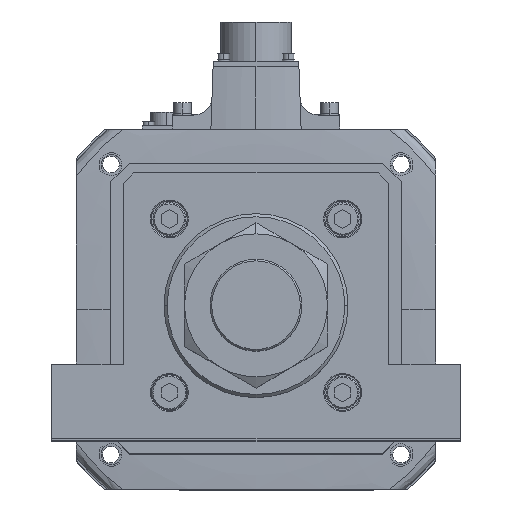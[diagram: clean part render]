
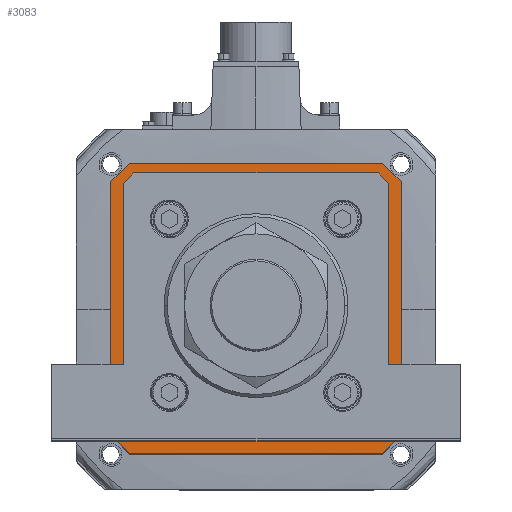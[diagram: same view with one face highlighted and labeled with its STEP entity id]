
A CAD part, top view. The second image highlights one B-rep face of the part: STEP entity #3083.
In plain terms, the highlighted planar face has unit normal (0, 0, 1) as drawn and (0, 0, -1) by its records, which use the part's own axes.
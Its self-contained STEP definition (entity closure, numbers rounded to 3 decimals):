
#216 = ORIENTED_EDGE ( 'NONE', *, *, #29759, .T. ) ;
#242 = EDGE_CURVE ( 'NONE', #27547, #39035, #8298, .T. ) ;
#326 = LINE ( 'NONE', #32681, #3052 ) ;
#546 = ORIENTED_EDGE ( 'NONE', *, *, #15823, .T. ) ;
#560 = VECTOR ( 'NONE', #48895, 1000. ) ;
#620 = VERTEX_POINT ( 'NONE', #1150 ) ;
#1016 = VERTEX_POINT ( 'NONE', #15608 ) ;
#1150 = CARTESIAN_POINT ( 'NONE',  ( -71., 62., 60. ) ) ;
#1352 = DIRECTION ( 'NONE',  ( -0.707, -0.707, 0. ) ) ;
#1757 = CARTESIAN_POINT ( 'NONE',  ( -62., -71., 60. ) ) ;
#2134 = CARTESIAN_POINT ( 'NONE',  ( 58.793, -63., 60. ) ) ;
#2183 = VECTOR ( 'NONE', #1352, 1000. ) ;
#2620 = DIRECTION ( 'NONE',  ( 0.707, -0.707, 0. ) ) ;
#2663 = FACE_BOUND ( 'NONE', #29656, .T. ) ;
#3052 = VECTOR ( 'NONE', #19324, 1000. ) ;
#3083 = ADVANCED_FACE ( 'NONE', ( #2663, #24442 ), #43085, .F. ) ;
#3565 = ORIENTED_EDGE ( 'NONE', *, *, #5585, .F. ) ;
#3888 = ORIENTED_EDGE ( 'NONE', *, *, #31674, .F. ) ;
#4303 = CARTESIAN_POINT ( 'NONE',  ( 62., 71., 60. ) ) ;
#5190 = DIRECTION ( 'NONE',  ( 0.707, 0.707, 0. ) ) ;
#5585 = EDGE_CURVE ( 'NONE', #23298, #36385, #326, .T. ) ;
#6085 = CARTESIAN_POINT ( 'NONE',  ( 71., -62., 60. ) ) ;
#6140 = VECTOR ( 'NONE', #18402, 1000. ) ;
#6394 = ORIENTED_EDGE ( 'NONE', *, *, #29963, .T. ) ;
#6889 = DIRECTION ( 'NONE',  ( -1., 0., 0. ) ) ;
#6937 = DIRECTION ( 'NONE',  ( 0., -1., 0. ) ) ;
#7072 = VECTOR ( 'NONE', #28926, 1000. ) ;
#7421 = EDGE_CURVE ( 'NONE', #39035, #25885, #47183, .T. ) ;
#7661 = CARTESIAN_POINT ( 'NONE',  ( 60.896, -60.896, 60. ) ) ;
#7894 = CARTESIAN_POINT ( 'NONE',  ( 0., 0., 60. ) ) ;
#8107 = VECTOR ( 'NONE', #22735, 1000. ) ;
#8298 = LINE ( 'NONE', #36233, #30745 ) ;
#9018 = CARTESIAN_POINT ( 'NONE',  ( 71., 62., 60. ) ) ;
#9128 = VERTEX_POINT ( 'NONE', #47853 ) ;
#9308 = ORIENTED_EDGE ( 'NONE', *, *, #18698, .T. ) ;
#9477 = LINE ( 'NONE', #31510, #8107 ) ;
#11081 = VERTEX_POINT ( 'NONE', #27186 ) ;
#11380 = LINE ( 'NONE', #28515, #54952 ) ;
#12549 = EDGE_CURVE ( 'NONE', #25885, #12984, #52354, .T. ) ;
#12706 = CARTESIAN_POINT ( 'NONE',  ( -58.793, -63., 60. ) ) ;
#12984 = VERTEX_POINT ( 'NONE', #19002 ) ;
#13047 = ORIENTED_EDGE ( 'NONE', *, *, #24033, .F. ) ;
#14775 = ORIENTED_EDGE ( 'NONE', *, *, #12549, .T. ) ;
#14967 = ORIENTED_EDGE ( 'NONE', *, *, #40530, .T. ) ;
#15562 = CARTESIAN_POINT ( 'NONE',  ( 62., 71., 60. ) ) ;
#15608 = CARTESIAN_POINT ( 'NONE',  ( -63., -58.793, 60. ) ) ;
#15652 = VECTOR ( 'NONE', #17471, 1000. ) ;
#15823 = EDGE_CURVE ( 'NONE', #23298, #38756, #34075, .T. ) ;
#16523 = CARTESIAN_POINT ( 'NONE',  ( 60.896, 60.896, 60. ) ) ;
#17016 = EDGE_CURVE ( 'NONE', #1016, #27547, #28474, .T. ) ;
#17471 = DIRECTION ( 'NONE',  ( 0., -1., 0. ) ) ;
#18370 = CARTESIAN_POINT ( 'NONE',  ( -60.896, -60.896, 60. ) ) ;
#18402 = DIRECTION ( 'NONE',  ( -0.707, -0.707, 0. ) ) ;
#18698 = EDGE_CURVE ( 'NONE', #32141, #1016, #27961, .T. ) ;
#19002 = CARTESIAN_POINT ( 'NONE',  ( 63., 58.793, 60. ) ) ;
#19324 = DIRECTION ( 'NONE',  ( 0., 1., 0. ) ) ;
#19343 = LINE ( 'NONE', #16523, #38443 ) ;
#20280 = VERTEX_POINT ( 'NONE', #35755 ) ;
#20556 = DIRECTION ( 'NONE',  ( 0.707, 0.707, 0. ) ) ;
#21104 = EDGE_CURVE ( 'NONE', #620, #33159, #45776, .T. ) ;
#22735 = DIRECTION ( 'NONE',  ( -1., 0., 0. ) ) ;
#22906 = CARTESIAN_POINT ( 'NONE',  ( 63., -58.793, 60. ) ) ;
#23298 = VERTEX_POINT ( 'NONE', #6085 ) ;
#23670 = ORIENTED_EDGE ( 'NONE', *, *, #242, .T. ) ;
#23986 = ORIENTED_EDGE ( 'NONE', *, *, #21104, .F. ) ;
#24033 = EDGE_CURVE ( 'NONE', #41259, #11081, #9477, .T. ) ;
#24442 = FACE_OUTER_BOUND ( 'NONE', #29288, .T. ) ;
#24818 = VECTOR ( 'NONE', #5190, 1000. ) ;
#25885 = VERTEX_POINT ( 'NONE', #22906 ) ;
#26269 = CARTESIAN_POINT ( 'NONE',  ( 71., -62., 60. ) ) ;
#26342 = CARTESIAN_POINT ( 'NONE',  ( 62., -71., 60. ) ) ;
#27186 = CARTESIAN_POINT ( 'NONE',  ( -62., 71., 60. ) ) ;
#27465 = EDGE_CURVE ( 'NONE', #12984, #9128, #19343, .T. ) ;
#27470 = AXIS2_PLACEMENT_3D ( 'NONE', #7894, #47479, #34516 ) ;
#27547 = VERTEX_POINT ( 'NONE', #12706 ) ;
#27961 = LINE ( 'NONE', #47837, #15652 ) ;
#28474 = LINE ( 'NONE', #18370, #560 ) ;
#28498 = EDGE_CURVE ( 'NONE', #20280, #33159, #50644, .T. ) ;
#28515 = CARTESIAN_POINT ( 'NONE',  ( -71., -71., 60. ) ) ;
#28728 = DIRECTION ( 'NONE',  ( 1., 0., 0. ) ) ;
#28926 = DIRECTION ( 'NONE',  ( -0.707, 0.707, 0. ) ) ;
#28957 = CARTESIAN_POINT ( 'NONE',  ( -59., 63., 60. ) ) ;
#29288 = EDGE_LOOP ( 'NONE', ( #3888, #50384, #23986, #14967, #13047, #6394, #3565, #546 ) ) ;
#29488 = DIRECTION ( 'NONE',  ( -0.707, 0.707, 0. ) ) ;
#29656 = EDGE_LOOP ( 'NONE', ( #47522, #9308, #38094, #23670, #48503, #14775, #30611, #216 ) ) ;
#29758 = CARTESIAN_POINT ( 'NONE',  ( 63., 59., 60. ) ) ;
#29759 = EDGE_CURVE ( 'NONE', #9128, #53560, #47895, .T. ) ;
#29963 = EDGE_CURVE ( 'NONE', #41259, #36385, #45614, .T. ) ;
#30611 = ORIENTED_EDGE ( 'NONE', *, *, #27465, .T. ) ;
#30745 = VECTOR ( 'NONE', #40602, 1000. ) ;
#31510 = CARTESIAN_POINT ( 'NONE',  ( -71., 71., 60. ) ) ;
#31674 = EDGE_CURVE ( 'NONE', #20280, #38756, #11380, .T. ) ;
#32141 = VERTEX_POINT ( 'NONE', #41234 ) ;
#32205 = CARTESIAN_POINT ( 'NONE',  ( -60.896, 60.896, 60. ) ) ;
#32681 = CARTESIAN_POINT ( 'NONE',  ( 71., 71., 60. ) ) ;
#33159 = VERTEX_POINT ( 'NONE', #43671 ) ;
#34075 = LINE ( 'NONE', #26269, #6140 ) ;
#34516 = DIRECTION ( 'NONE',  ( 1., 0., 0. ) ) ;
#34674 = VECTOR ( 'NONE', #50893, 1000. ) ;
#35755 = CARTESIAN_POINT ( 'NONE',  ( -62., -71., 60. ) ) ;
#36233 = CARTESIAN_POINT ( 'NONE',  ( 59., -63., 60. ) ) ;
#36385 = VERTEX_POINT ( 'NONE', #9018 ) ;
#36921 = VECTOR ( 'NONE', #6937, 1000. ) ;
#37764 = CARTESIAN_POINT ( 'NONE',  ( -71., 71., 60. ) ) ;
#38094 = ORIENTED_EDGE ( 'NONE', *, *, #17016, .T. ) ;
#38443 = VECTOR ( 'NONE', #29488, 1000. ) ;
#38756 = VERTEX_POINT ( 'NONE', #26342 ) ;
#38772 = VECTOR ( 'NONE', #2620, 1000. ) ;
#39035 = VERTEX_POINT ( 'NONE', #2134 ) ;
#40530 = EDGE_CURVE ( 'NONE', #620, #11081, #48033, .T. ) ;
#40602 = DIRECTION ( 'NONE',  ( 1., 0., 0. ) ) ;
#41234 = CARTESIAN_POINT ( 'NONE',  ( -63., 58.793, 60. ) ) ;
#41259 = VERTEX_POINT ( 'NONE', #4303 ) ;
#43085 = PLANE ( 'NONE',  #27470 ) ;
#43671 = CARTESIAN_POINT ( 'NONE',  ( -71., -62., 60. ) ) ;
#44432 = LINE ( 'NONE', #32205, #2183 ) ;
#45614 = LINE ( 'NONE', #15562, #38772 ) ;
#45776 = LINE ( 'NONE', #37764, #36921 ) ;
#47183 = LINE ( 'NONE', #7661, #50531 ) ;
#47479 = DIRECTION ( 'NONE',  ( 0., 0., 1. ) ) ;
#47522 = ORIENTED_EDGE ( 'NONE', *, *, #47834, .T. ) ;
#47834 = EDGE_CURVE ( 'NONE', #53560, #32141, #44432, .T. ) ;
#47837 = CARTESIAN_POINT ( 'NONE',  ( -63., -59., 60. ) ) ;
#47853 = CARTESIAN_POINT ( 'NONE',  ( 58.793, 63., 60. ) ) ;
#47895 = LINE ( 'NONE', #28957, #53962 ) ;
#48033 = LINE ( 'NONE', #53154, #24818 ) ;
#48503 = ORIENTED_EDGE ( 'NONE', *, *, #7421, .T. ) ;
#48895 = DIRECTION ( 'NONE',  ( 0.707, -0.707, 0. ) ) ;
#50072 = CARTESIAN_POINT ( 'NONE',  ( -58.793, 63., 60. ) ) ;
#50384 = ORIENTED_EDGE ( 'NONE', *, *, #28498, .T. ) ;
#50531 = VECTOR ( 'NONE', #20556, 1000. ) ;
#50644 = LINE ( 'NONE', #1757, #7072 ) ;
#50893 = DIRECTION ( 'NONE',  ( 0., 1., 0. ) ) ;
#52354 = LINE ( 'NONE', #29758, #34674 ) ;
#53154 = CARTESIAN_POINT ( 'NONE',  ( -71., 62., 60. ) ) ;
#53560 = VERTEX_POINT ( 'NONE', #50072 ) ;
#53962 = VECTOR ( 'NONE', #6889, 1000. ) ;
#54952 = VECTOR ( 'NONE', #28728, 1000. ) ;
